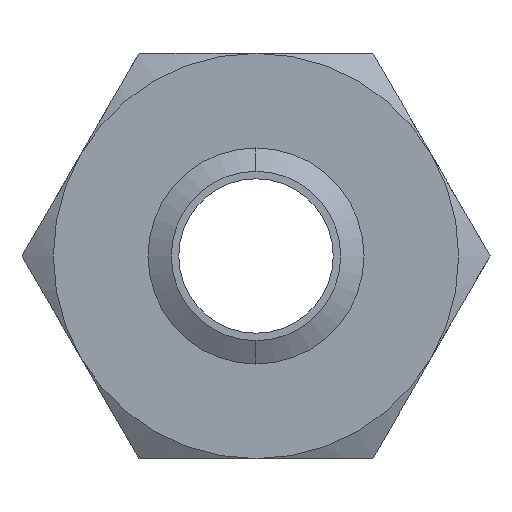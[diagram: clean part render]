
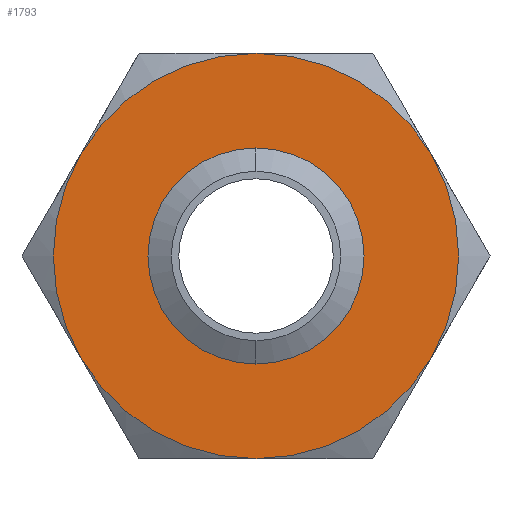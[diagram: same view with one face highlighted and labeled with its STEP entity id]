
A CAD part, front view. The second image highlights one B-rep face of the part: STEP entity #1793.
In plain terms, the highlighted planar face has unit normal (0, -1, 0).
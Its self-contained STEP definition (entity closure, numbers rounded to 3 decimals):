
#238 = VERTEX_POINT ( 'NONE', #840 ) ;
#239 = ORIENTED_EDGE ( 'NONE', *, *, #246, .F. ) ;
#240 = ORIENTED_EDGE ( 'NONE', *, *, #241, .F. ) ;
#241 = EDGE_CURVE ( 'NONE', #238, #243, #839, .T. ) ;
#243 = VERTEX_POINT ( 'NONE', #833 ) ;
#246 = EDGE_CURVE ( 'NONE', #243, #1788, #890, .T. ) ;
#250 = VERTEX_POINT ( 'NONE', #876 ) ;
#251 = ORIENTED_EDGE ( 'NONE', *, *, #254, .F. ) ;
#254 = EDGE_CURVE ( 'NONE', #1788, #250, #874, .T. ) ;
#833 = CARTESIAN_POINT ( 'NONE',  ( -32.476, 0., 18.75 ) ) ;
#835 = DIRECTION ( 'NONE',  ( 0., 0., 1. ) ) ;
#836 = DIRECTION ( 'NONE',  ( 0., 1., 0. ) ) ;
#837 = CARTESIAN_POINT ( 'NONE',  ( 0., 0., 0. ) ) ;
#838 = AXIS2_PLACEMENT_3D ( 'NONE', #837, #836, #835 ) ;
#839 = CIRCLE ( 'NONE', #838, 37.5 ) ;
#840 = CARTESIAN_POINT ( 'NONE',  ( -32.476, 0., -18.75 ) ) ;
#870 = DIRECTION ( 'NONE',  ( 0., 0., 1. ) ) ;
#871 = DIRECTION ( 'NONE',  ( 0., 1., 0. ) ) ;
#872 = CARTESIAN_POINT ( 'NONE',  ( 0., 0., 0. ) ) ;
#873 = AXIS2_PLACEMENT_3D ( 'NONE', #872, #871, #870 ) ;
#874 = CIRCLE ( 'NONE', #873, 37.5 ) ;
#876 = CARTESIAN_POINT ( 'NONE',  ( 32.476, 0., 18.75 ) ) ;
#886 = DIRECTION ( 'NONE',  ( 0., 0., 1. ) ) ;
#887 = DIRECTION ( 'NONE',  ( 0., 1., 0. ) ) ;
#888 = CARTESIAN_POINT ( 'NONE',  ( 0., 0., 0. ) ) ;
#889 = AXIS2_PLACEMENT_3D ( 'NONE', #888, #887, #886 ) ;
#890 = CIRCLE ( 'NONE', #889, 37.5 ) ;
#1142 = AXIS2_PLACEMENT_3D ( 'NONE', #1205, #1204, #1203 ) ;
#1143 = PLANE ( 'NONE',  #1142 ) ;
#1144 = FACE_BOUND ( 'NONE', #1786, .T. ) ;
#1145 = FACE_OUTER_BOUND ( 'NONE', #1785, .T. ) ;
#1146 = CARTESIAN_POINT ( 'NONE',  ( 0., 0., 37.5 ) ) ;
#1147 = DIRECTION ( 'NONE',  ( 0., 0., 1. ) ) ;
#1148 = DIRECTION ( 'NONE',  ( 0., 1., 0. ) ) ;
#1149 = CARTESIAN_POINT ( 'NONE',  ( 0., 0., 0. ) ) ;
#1150 = AXIS2_PLACEMENT_3D ( 'NONE', #1149, #1148, #1147 ) ;
#1151 = CIRCLE ( 'NONE', #1150, 37.5 ) ;
#1179 = DIRECTION ( 'NONE',  ( 0., 0., -1. ) ) ;
#1180 = DIRECTION ( 'NONE',  ( 0., -1., 0. ) ) ;
#1181 = AXIS2_PLACEMENT_3D ( 'NONE', #1188, #1180, #1179 ) ;
#1182 = CIRCLE ( 'NONE', #1181, 15.67 ) ;
#1183 = DIRECTION ( 'NONE',  ( 0., 0., 1. ) ) ;
#1184 = DIRECTION ( 'NONE',  ( 0., 1., 0. ) ) ;
#1185 = CARTESIAN_POINT ( 'NONE',  ( 0., 0., 0. ) ) ;
#1186 = AXIS2_PLACEMENT_3D ( 'NONE', #1185, #1184, #1183 ) ;
#1187 = CIRCLE ( 'NONE', #1186, 37.5 ) ;
#1188 = CARTESIAN_POINT ( 'NONE',  ( 0., 0., 0. ) ) ;
#1189 = CARTESIAN_POINT ( 'NONE',  ( 32.476, 0., -18.75 ) ) ;
#1190 = DIRECTION ( 'NONE',  ( 0., 0., 1. ) ) ;
#1191 = DIRECTION ( 'NONE',  ( 0., 1., 0. ) ) ;
#1192 = CARTESIAN_POINT ( 'NONE',  ( 0., 0., 0. ) ) ;
#1193 = AXIS2_PLACEMENT_3D ( 'NONE', #1192, #1191, #1190 ) ;
#1194 = CIRCLE ( 'NONE', #1193, 37.5 ) ;
#1203 = DIRECTION ( 'NONE',  ( 0., 0., 1. ) ) ;
#1204 = DIRECTION ( 'NONE',  ( 0., 1., 0. ) ) ;
#1205 = CARTESIAN_POINT ( 'NONE',  ( 21.651, 0., -37.5 ) ) ;
#1275 = CARTESIAN_POINT ( 'NONE',  ( 0., 0., -15.67 ) ) ;
#1283 = DIRECTION ( 'NONE',  ( 0., 0., -1. ) ) ;
#1284 = DIRECTION ( 'NONE',  ( 0., -1., 0. ) ) ;
#1285 = CARTESIAN_POINT ( 'NONE',  ( 0., 0., 0. ) ) ;
#1286 = AXIS2_PLACEMENT_3D ( 'NONE', #1285, #1284, #1283 ) ;
#1287 = CIRCLE ( 'NONE', #1286, 15.67 ) ;
#1293 = CARTESIAN_POINT ( 'NONE',  ( 0., 0., 15.67 ) ) ;
#1295 = CARTESIAN_POINT ( 'NONE',  ( 0., 0., -37.5 ) ) ;
#1782 = ORIENTED_EDGE ( 'NONE', *, *, #1783, .F. ) ;
#1783 = EDGE_CURVE ( 'NONE', #1864, #238, #1151, .T. ) ;
#1785 = EDGE_LOOP ( 'NONE', ( #251, #239, #240, #1782, #1799, #1796 ) ) ;
#1786 = EDGE_LOOP ( 'NONE', ( #1803, #1802 ) ) ;
#1788 = VERTEX_POINT ( 'NONE', #1146 ) ;
#1793 = ADVANCED_FACE ( 'NONE', ( #1145, #1144 ), #1143, .F. ) ;
#1796 = ORIENTED_EDGE ( 'NONE', *, *, #1797, .F. ) ;
#1797 = EDGE_CURVE ( 'NONE', #250, #1798, #1194, .T. ) ;
#1798 = VERTEX_POINT ( 'NONE', #1189 ) ;
#1799 = ORIENTED_EDGE ( 'NONE', *, *, #1800, .F. ) ;
#1800 = EDGE_CURVE ( 'NONE', #1798, #1864, #1187, .T. ) ;
#1802 = ORIENTED_EDGE ( 'NONE', *, *, #1804, .F. ) ;
#1803 = ORIENTED_EDGE ( 'NONE', *, *, #1869, .F. ) ;
#1804 = EDGE_CURVE ( 'NONE', #1865, #1873, #1182, .T. ) ;
#1864 = VERTEX_POINT ( 'NONE', #1295 ) ;
#1865 = VERTEX_POINT ( 'NONE', #1293 ) ;
#1869 = EDGE_CURVE ( 'NONE', #1873, #1865, #1287, .T. ) ;
#1873 = VERTEX_POINT ( 'NONE', #1275 ) ;
